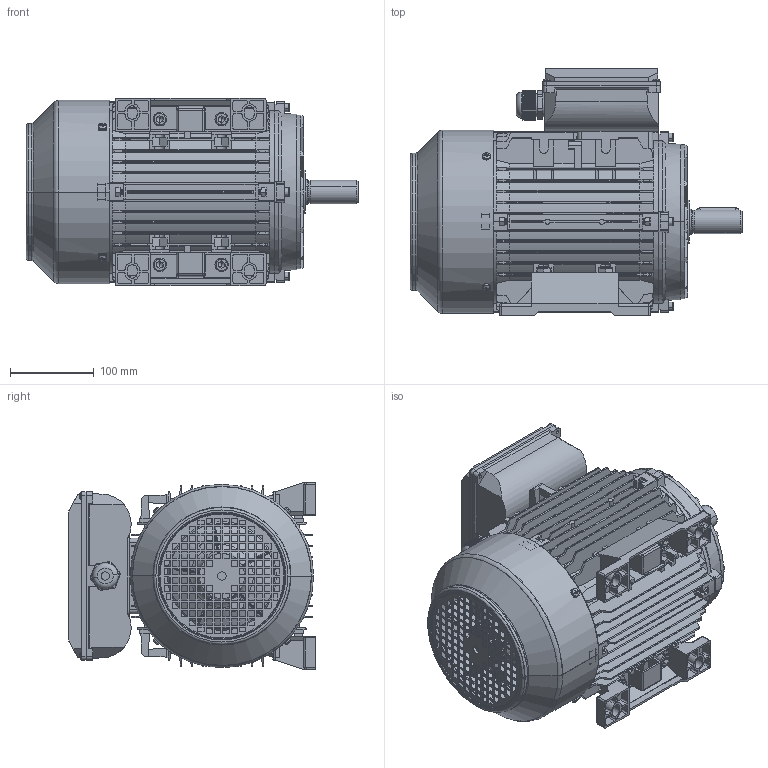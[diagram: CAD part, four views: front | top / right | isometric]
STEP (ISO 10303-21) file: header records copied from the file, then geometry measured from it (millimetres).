
FILE_DESCRIPTION (( 'STEP AP203' ), '1' );
FILE_NAME ('ML2 112 B3(臏諉盄碟).STEP', '2024-01-20T08:44:26', ( '' ), ( '' ), 'SwSTEP 2.0', 'SolidWorks 2016', '' );
FILE_SCHEMA (( 'CONFIG_CONTROL_DESIGN' ));
Length unit declared in the file: millimetre
Products named in the file (19): hexagon socket head cap screws gb_GB_FASTENER_SCREWS_HSHCS M6X30-N; cross recessed thread forming screws gb_GB_CROSS_SCREWS_TYPE138 M5X12-N; plain parallel keys_GB_CONNECTING_PIECE_KEYS_CSK 8X50; MS112 瑞珔; cross recessed thread forming screws gb_GB_CROSS_SCREWS_TYPE138 M4X10-N; T112儂褲; 112-132堤盄蹟杶; ML100-ML112諉盄碟裔(臏); ML100-ML112諉盄碟釱(臏); TA112瑞欶; TA112ヶ裔1; hexagon socket head cap screws gb_GB_FASTENER_SCREWS_HSHCS M10X25-N; T112蛌粣; T112菁褐; hexagon nuts grade c gb_GB_FASTENER_NUT_SNC1 M6-N; hexagon nuts grade c gb_GB_FASTENER_NUT_SNC1 M10-N; ML112諉盄碟蚾饜极; ML2 112 B3(臏諉盄碟); TA112綴裔1
Assembly tree (45 placements, depth 3):
  ML2 112 B3(臏諉盄碟)
    T112儂褲
    T112菁褐  x2
    TA112綴裔1
    TA112瑞欶
    MS112 瑞珔
    T112蛌粣
    hexagon socket head cap screws gb_GB_FASTENER_SCREWS_HSHCS M10X25-N  x4
    cross recessed thread forming screws gb_GB_CROSS_SCREWS_TYPE138 M5X12-N  x4
    hexagon nuts grade c gb_GB_FASTENER_NUT_SNC1 M6-N  x8
    hexagon nuts grade c gb_GB_FASTENER_NUT_SNC1 M10-N  x4
    plain parallel keys_GB_CONNECTING_PIECE_KEYS_CSK 8X50
    TA112ヶ裔1
    hexagon socket head cap screws gb_GB_FASTENER_SCREWS_HSHCS M6X30-N  x8
    ML112諉盄碟蚾饜极
      112-132堤盄蹟杶
      cross recessed thread forming screws gb_GB_CROSS_SCREWS_TYPE138 M4X10-N  x4
      ML100-ML112諉盄碟釱(臏)
      ML100-ML112諉盄碟裔(臏)
Bounding box: 397 x 295.5 x 224 mm (x, y, z)
Volume: 2292060.3 mm3; surface area: 1343976 mm2
Topology: 44 solids, 44 shells, 4309 faces, 11687 edges, 7564 vertices
Faces by surface type: plane 2739, cylinder 1072, cone 286, torus 120, sphere 64, bspline 28
Entity records: 122708 total; most frequent: CARTESIAN_POINT 28856, ORIENTED_EDGE 19840, DIRECTION 17787, EDGE_CURVE 9920, LINE 6669, VECTOR 6669, VERTEX_POINT 6468, AXIS2_PLACEMENT_3D 5559
